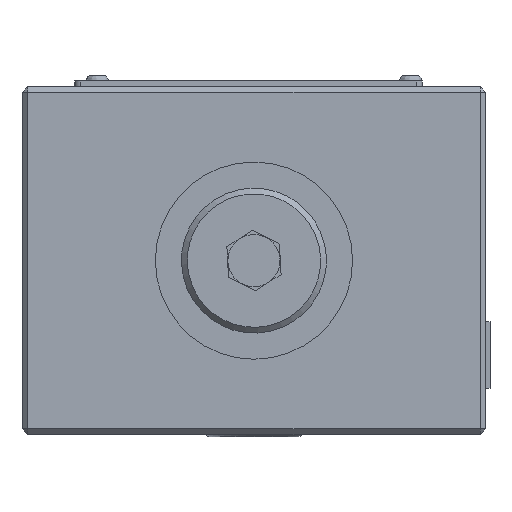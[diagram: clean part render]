
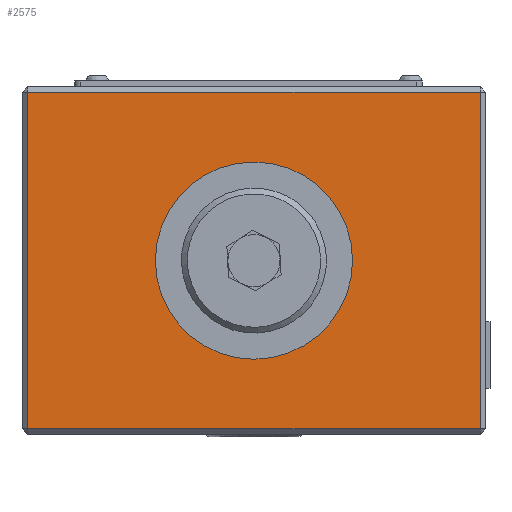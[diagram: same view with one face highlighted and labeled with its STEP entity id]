
A CAD part, front view. The second image highlights one B-rep face of the part: STEP entity #2575.
In plain terms, the highlighted planar face has unit normal (0, -1, 0).
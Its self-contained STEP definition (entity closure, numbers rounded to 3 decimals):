
#662=FACE_BOUND('',#3987,.T.);
#663=FACE_BOUND('',#3988,.T.);
#1561=LINE('',#24471,#2005);
#1562=LINE('',#24474,#2006);
#1563=LINE('',#24476,#2007);
#1564=LINE('',#24478,#2008);
#2005=VECTOR('',#11431,1.);
#2006=VECTOR('',#11432,1.);
#2007=VECTOR('',#11433,1.);
#2008=VECTOR('',#11434,1.);
#2575=ADVANCED_FACE('',(#662,#663),#2929,.T.);
#2929=PLANE('',#9501);
#3987=EDGE_LOOP('',(#5998,#5999,#6000,#6001));
#3988=EDGE_LOOP('',(#6002));
#5998=ORIENTED_EDGE('',*,*,#8214,.T.);
#5999=ORIENTED_EDGE('',*,*,#8215,.T.);
#6000=ORIENTED_EDGE('',*,*,#8216,.T.);
#6001=ORIENTED_EDGE('',*,*,#8217,.T.);
#6002=ORIENTED_EDGE('',*,*,#8218,.F.);
#7133=VERTEX_POINT('',#24472);
#7134=VERTEX_POINT('',#24473);
#7135=VERTEX_POINT('',#24475);
#7136=VERTEX_POINT('',#24477);
#7137=VERTEX_POINT('',#24480);
#8214=EDGE_CURVE('',#7133,#7134,#1561,.T.);
#8215=EDGE_CURVE('',#7134,#7135,#1562,.T.);
#8216=EDGE_CURVE('',#7135,#7136,#1563,.T.);
#8217=EDGE_CURVE('',#7136,#7133,#1564,.T.);
#8218=EDGE_CURVE('',#7137,#7137,#8731,.T.);
#8731=CIRCLE('',#9500,17.);
#9500=AXIS2_PLACEMENT_3D('',#24479,#11435,#11436);
#9501=AXIS2_PLACEMENT_3D('',#24481,#11437,#11438);
#11431=DIRECTION('',(-1.,0.,0.));
#11432=DIRECTION('',(0.,0.,-1.));
#11433=DIRECTION('',(1.,0.,0.));
#11434=DIRECTION('',(0.,0.,1.));
#11435=DIRECTION('',(0.,-1.,0.));
#11436=DIRECTION('',(0.,0.,1.));
#11437=DIRECTION('',(0.,-1.,0.));
#11438=DIRECTION('',(0.,0.,-1.));
#24471=CARTESIAN_POINT('',(-32.199,-94.308,29.));
#24472=CARTESIAN_POINT('',(46.801,-94.308,29.));
#24473=CARTESIAN_POINT('',(-31.199,-94.308,29.));
#24474=CARTESIAN_POINT('',(-31.199,-94.308,-30.));
#24475=CARTESIAN_POINT('',(-31.199,-94.308,-29.));
#24476=CARTESIAN_POINT('',(47.801,-94.308,-29.));
#24477=CARTESIAN_POINT('',(46.801,-94.308,-29.));
#24478=CARTESIAN_POINT('',(46.801,-94.308,-30.));
#24479=CARTESIAN_POINT('',(7.801,-94.308,0.));
#24480=CARTESIAN_POINT('',(7.801,-94.308,17.));
#24481=CARTESIAN_POINT('',(-32.199,-94.308,-30.));
